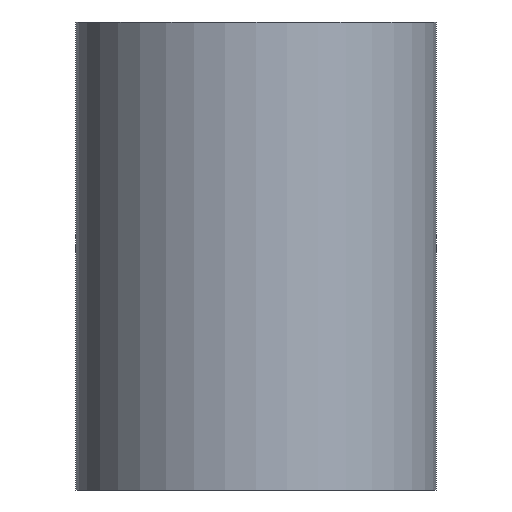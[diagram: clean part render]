
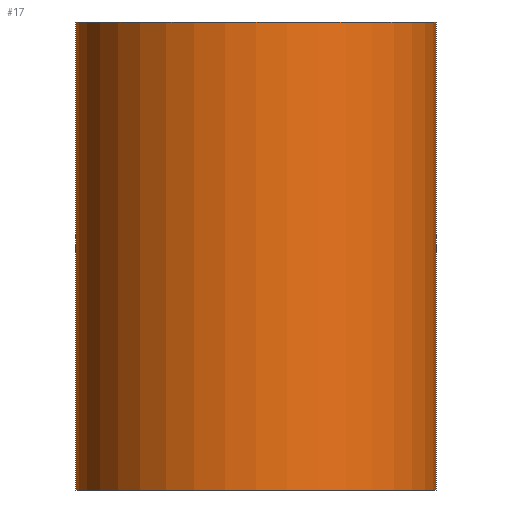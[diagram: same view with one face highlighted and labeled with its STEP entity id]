
A CAD part, front view. The second image highlights one B-rep face of the part: STEP entity #17.
In plain terms, the highlighted cylindrical face has radius 77 mm (diameter 154 mm), a full revolution.
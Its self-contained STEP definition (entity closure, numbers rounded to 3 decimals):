
#17 = ADVANCED_FACE('',(#18),#32,.T.);
#18 = FACE_BOUND('',#19,.F.);
#19 = EDGE_LOOP('',(#20,#50,#77,#78));
#20 = ORIENTED_EDGE('',*,*,#21,.T.);
#21 = EDGE_CURVE('',#22,#24,#26,.T.);
#22 = VERTEX_POINT('',#23);
#23 = CARTESIAN_POINT('',(77.,0.,0.));
#24 = VERTEX_POINT('',#25);
#25 = CARTESIAN_POINT('',(77.,0.,200.));
#26 = SEAM_CURVE('',#27,(#31,#43),.PCURVE_S1.);
#27 = LINE('',#28,#29);
#28 = CARTESIAN_POINT('',(77.,0.,0.));
#29 = VECTOR('',#30,1.);
#30 = DIRECTION('',(0.,0.,1.));
#31 = PCURVE('',#32,#37);
#32 = CYLINDRICAL_SURFACE('',#33,77.);
#33 = AXIS2_PLACEMENT_3D('',#34,#35,#36);
#34 = CARTESIAN_POINT('',(0.,0.,0.));
#35 = DIRECTION('',(-0.,-0.,-1.));
#36 = DIRECTION('',(1.,0.,-0.));
#37 = DEFINITIONAL_REPRESENTATION('',(#38),#42);
#38 = LINE('',#39,#40);
#39 = CARTESIAN_POINT('',(-0.,0.));
#40 = VECTOR('',#41,1.);
#41 = DIRECTION('',(-0.,-1.));
#42 = ( GEOMETRIC_REPRESENTATION_CONTEXT(2) 
PARAMETRIC_REPRESENTATION_CONTEXT() REPRESENTATION_CONTEXT('2D SPACE',''
  ) );
#43 = PCURVE('',#32,#44);
#44 = DEFINITIONAL_REPRESENTATION('',(#45),#49);
#45 = LINE('',#46,#47);
#46 = CARTESIAN_POINT('',(-6.283,0.));
#47 = VECTOR('',#48,1.);
#48 = DIRECTION('',(-0.,-1.));
#49 = ( GEOMETRIC_REPRESENTATION_CONTEXT(2) 
PARAMETRIC_REPRESENTATION_CONTEXT() REPRESENTATION_CONTEXT('2D SPACE',''
  ) );
#50 = ORIENTED_EDGE('',*,*,#51,.T.);
#51 = EDGE_CURVE('',#24,#24,#52,.T.);
#52 = SURFACE_CURVE('',#53,(#58,#65),.PCURVE_S1.);
#53 = CIRCLE('',#54,77.);
#54 = AXIS2_PLACEMENT_3D('',#55,#56,#57);
#55 = CARTESIAN_POINT('',(0.,0.,200.));
#56 = DIRECTION('',(0.,0.,1.));
#57 = DIRECTION('',(1.,0.,-0.));
#58 = PCURVE('',#32,#59);
#59 = DEFINITIONAL_REPRESENTATION('',(#60),#64);
#60 = LINE('',#61,#62);
#61 = CARTESIAN_POINT('',(-0.,-200.));
#62 = VECTOR('',#63,1.);
#63 = DIRECTION('',(-1.,0.));
#64 = ( GEOMETRIC_REPRESENTATION_CONTEXT(2) 
PARAMETRIC_REPRESENTATION_CONTEXT() REPRESENTATION_CONTEXT('2D SPACE',''
  ) );
#65 = PCURVE('',#66,#71);
#66 = PLANE('',#67);
#67 = AXIS2_PLACEMENT_3D('',#68,#69,#70);
#68 = CARTESIAN_POINT('',(0.,0.,200.));
#69 = DIRECTION('',(0.,0.,1.));
#70 = DIRECTION('',(1.,0.,-0.));
#71 = DEFINITIONAL_REPRESENTATION('',(#72),#76);
#72 = CIRCLE('',#73,77.);
#73 = AXIS2_PLACEMENT_2D('',#74,#75);
#74 = CARTESIAN_POINT('',(0.,0.));
#75 = DIRECTION('',(1.,0.));
#76 = ( GEOMETRIC_REPRESENTATION_CONTEXT(2) 
PARAMETRIC_REPRESENTATION_CONTEXT() REPRESENTATION_CONTEXT('2D SPACE',''
  ) );
#77 = ORIENTED_EDGE('',*,*,#21,.F.);
#78 = ORIENTED_EDGE('',*,*,#79,.F.);
#79 = EDGE_CURVE('',#22,#22,#80,.T.);
#80 = SURFACE_CURVE('',#81,(#86,#93),.PCURVE_S1.);
#81 = CIRCLE('',#82,77.);
#82 = AXIS2_PLACEMENT_3D('',#83,#84,#85);
#83 = CARTESIAN_POINT('',(0.,0.,0.));
#84 = DIRECTION('',(0.,0.,1.));
#85 = DIRECTION('',(1.,0.,-0.));
#86 = PCURVE('',#32,#87);
#87 = DEFINITIONAL_REPRESENTATION('',(#88),#92);
#88 = LINE('',#89,#90);
#89 = CARTESIAN_POINT('',(-0.,0.));
#90 = VECTOR('',#91,1.);
#91 = DIRECTION('',(-1.,0.));
#92 = ( GEOMETRIC_REPRESENTATION_CONTEXT(2) 
PARAMETRIC_REPRESENTATION_CONTEXT() REPRESENTATION_CONTEXT('2D SPACE',''
  ) );
#93 = PCURVE('',#94,#99);
#94 = PLANE('',#95);
#95 = AXIS2_PLACEMENT_3D('',#96,#97,#98);
#96 = CARTESIAN_POINT('',(0.,0.,0.));
#97 = DIRECTION('',(0.,0.,1.));
#98 = DIRECTION('',(1.,0.,-0.));
#99 = DEFINITIONAL_REPRESENTATION('',(#100),#104);
#100 = CIRCLE('',#101,77.);
#101 = AXIS2_PLACEMENT_2D('',#102,#103);
#102 = CARTESIAN_POINT('',(0.,0.));
#103 = DIRECTION('',(1.,0.));
#104 = ( GEOMETRIC_REPRESENTATION_CONTEXT(2) 
PARAMETRIC_REPRESENTATION_CONTEXT() REPRESENTATION_CONTEXT('2D SPACE',''
  ) );
